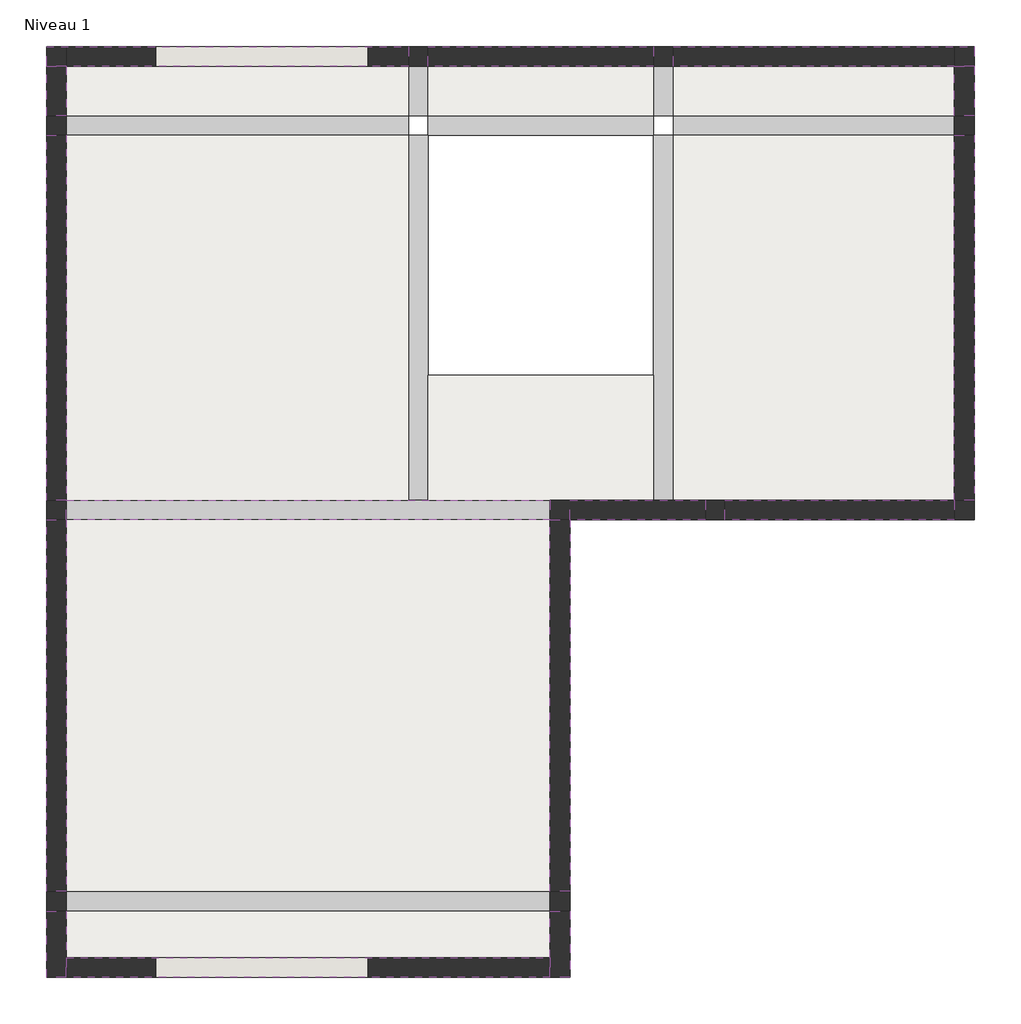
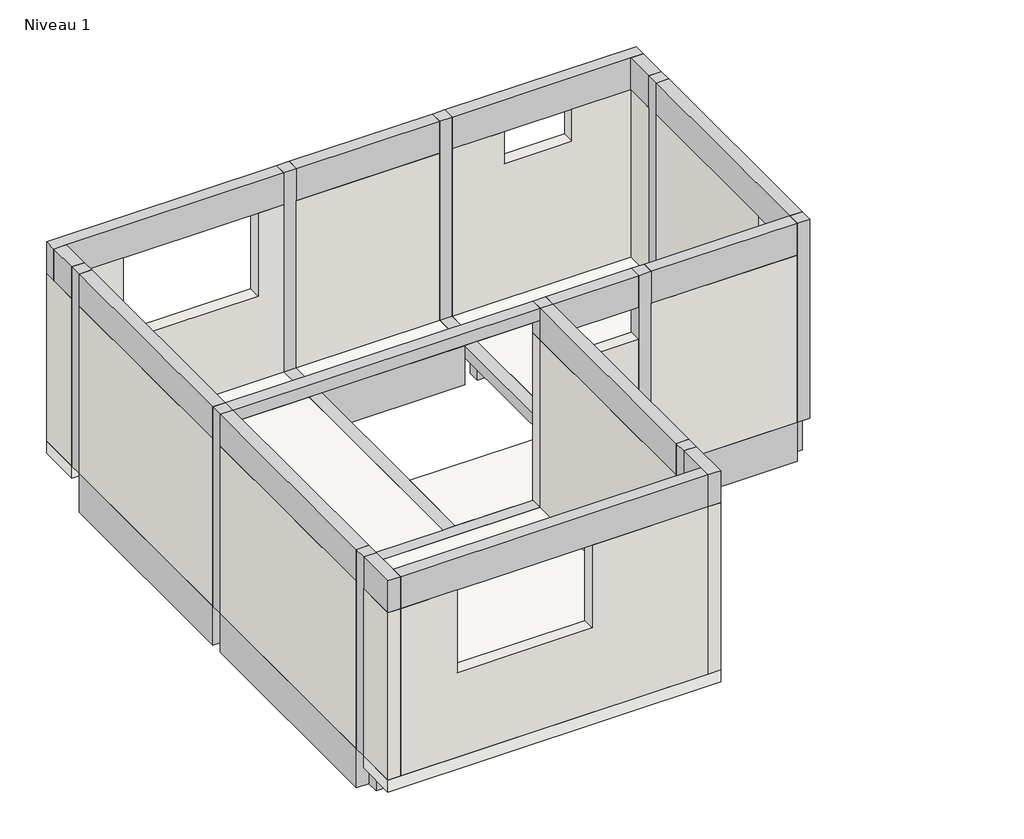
# One storey: 30 beams, 14 walls, 10 columns, 1 slab.
"""IFC4 building model written with IfcOpenShell, lengths in millimetres."""

from ifc_helpers import new_model, si_unit, frame, origin, place, context, project, spatial, polyline, outline, extrude, faceted_brep, element, save

model = new_model("IFC4")

# Units and contexts
model_context = context("Model", 3, world=origin())
ifc_project = project(units=[si_unit("LENGTHUNIT", "METRE", prefix="MILLI")], contexts=[model_context])

# Site, building, storey
site = spatial("IfcSite", under=ifc_project)
building = spatial("IfcBuilding", under=site)
storey = spatial("IfcBuildingStorey", under=building, Name="Niveau 1", Elevation=2590.0)

# Beams
placement = place(None, origin())
element("IfcBeam", 1, ObjectType="Poutre rectangulaire - Béton : 150 x 150 mm", at=placement, inside=storey, context=model_context, shape_type="Brep", body=[
    faceted_brep([(181.3643329, -1302.1202102, 2590.0), (-3468.6356671, -1302.1202102, 2590.0), (-3468.6356671, -1302.1202102, 2440.0), (181.3643329, -1302.1202102, 2440.0), (-3468.6356671, -1152.1202102, 2440.0), (-888.6356671, -1152.1202102, 2440.0), (-738.6356671, -1152.1202102, 2440.0), (181.3643329, -1152.1202102, 2440.0), (181.3643329, -1152.1202102, 2590.0), (-3468.6356671, -1152.1202102, 2590.0), (-888.6356671, -1152.1202102, 2590.0), (-738.6356671, -1152.1202102, 2590.0)], [[[0, 1, 2, 3]], [[3, 2, 4, 5, 6, 7]], [[8, 7, 6, 5, 4, 9, 10, 11]], [[1, 0, 8, 11, 10, 9]], [[0, 3, 7, 8]], [[1, 9, 4, 2]]]),
])
element("IfcBeam", 2, ObjectType="Poutre rectangulaire - Béton : 150 x 150 mm", at=placement, inside=storey, context=model_context, shape_type="Brep", body=[
    faceted_brep([(-888.6356671, 1597.8797898, 2590.0), (-888.6356671, 1597.8797898, 2440.0), (-888.6356671, -1152.1202102, 2440.0), (-888.6356671, -1152.1202102, 2590.0), (-738.6356671, 1597.8797898, 2440.0), (-738.6356671, -212.1202102, 2440.0), (-738.6356671, -1152.1202102, 2440.0), (-738.6356671, 1597.8797898, 2590.0), (-738.6356671, -212.1202102, 2590.0), (-738.6356671, -1152.1202102, 2590.0)], [[[0, 1, 2, 3]], [[1, 4, 5, 6, 2]], [[4, 7, 8, 9, 6, 5]], [[7, 0, 3, 9, 8]], [[0, 7, 4, 1]], [[3, 2, 6, 9]]]),
])
element("IfcBeam", 3, ObjectType="Poutre rectangulaire - Béton : 150 x 150 mm", at=placement, inside=storey, context=model_context, shape_type="Brep", body=[
    faceted_brep([(961.3643329, 1597.8797898, 2590.0), (961.3643329, 1597.8797898, 2440.0), (961.3643329, -212.1202102, 2440.0), (961.3643329, -1152.1202102, 2440.0), (961.3643329, -1152.1202102, 2590.0), (961.3643329, -212.1202102, 2590.0), (1111.3643329, 1597.8797898, 2440.0), (1111.3643329, -1152.1202102, 2440.0), (1111.3643329, 1597.8797898, 2590.0), (1111.3643329, -1152.1202102, 2590.0)], [[[0, 1, 2, 3, 4, 5]], [[1, 6, 7, 3, 2]], [[6, 8, 9, 7]], [[8, 0, 5, 4, 9]], [[1, 0, 8, 6]], [[4, 3, 7, 9]]]),
])
element("IfcBeam", 4, ObjectType="Poutre rectangulaire - Béton : 150 x 150 mm", at=placement, inside=storey, context=model_context, shape_type="Brep", body=[
    faceted_brep([(-738.6356671, 2260.5797898, 2590.0), (-738.6356671, 2260.5797898, 2440.0), (-888.6356671, 2260.5797898, 2440.0), (-888.6356671, 2260.5797898, 2590.0), (-738.6356671, 2117.8797898, 2590.0), (-738.6356671, 1747.8797898, 2590.0), (-738.6356671, 1747.8797898, 2440.0), (-888.6356671, 1747.8797898, 2440.0), (-888.6356671, 1747.8797898, 2590.0), (-888.6356671, 2117.8797898, 2590.0)], [[[0, 1, 2, 3]], [[1, 0, 4, 5, 6]], [[2, 1, 6, 7]], [[3, 2, 7, 8, 9]], [[0, 3, 9, 8, 5, 4]], [[5, 8, 7, 6]]]),
])
element("IfcBeam", 5, ObjectType="Poutre rectangulaire - Béton : 150 x 150 mm", at=placement, inside=storey, context=model_context, shape_type="Brep", body=[
    faceted_brep([(1111.3643329, 2260.5797898, 2590.0), (1111.3643329, 2260.5797898, 2440.0), (961.3643329, 2260.5797898, 2440.0), (961.3643329, 2260.5797898, 2590.0), (1111.3643329, 2117.8797898, 2590.0), (1111.3643329, 1747.8797898, 2590.0), (1111.3643329, 1747.8797898, 2440.0), (961.3643329, 1747.8797898, 2440.0), (961.3643329, 1747.8797898, 2590.0), (961.3643329, 2117.8797898, 2590.0)], [[[0, 1, 2, 3]], [[1, 0, 4, 5, 6]], [[2, 1, 6, 7]], [[3, 2, 7, 8, 9]], [[0, 3, 9, 8, 5, 4]], [[5, 8, 7, 6]]]),
])
element("IfcBeam", 6, ObjectType="Poutre rectangulaire - Béton : 150 x 150 mm", at=placement, inside=storey, context=model_context, shape_type="Brep", body=[
    faceted_brep([(181.3643329, -1302.1202102, 5090.0), (-3468.6356671, -1302.1202102, 5090.0), (-3468.6356671, -1302.1202102, 4990.0), (-3468.6356671, -1302.1202102, 4940.0), (181.3643329, -1302.1202102, 4940.0), (181.3643329, -1302.1202102, 4990.0), (-3468.6356671, -1152.1202102, 4940.0), (181.3643329, -1152.1202102, 4940.0), (-3468.6356671, -1152.1202102, 4990.0), (-3468.6356671, -1152.1202102, 5090.0), (181.3643329, -1152.1202102, 5090.0), (181.3643329, -1152.1202102, 4990.0)], [[[0, 1, 2, 3, 4, 5]], [[4, 3, 6, 7]], [[7, 6, 8, 9, 10, 11]], [[1, 0, 10, 9]], [[1, 9, 8, 6, 3, 2]], [[4, 7, 11, 10, 0, 5]]]),
])
element("IfcBeam", 7, ObjectType="Poutre rectangulaire - Béton : 150 x 400 mm", at=placement, inside=storey, context=model_context, shape_type="Brep", body=[
    faceted_brep([(-3618.6356671, -1152.1202102, 4690.0), (-3618.6356671, -1152.1202102, 5090.0), (-3618.6356671, 1597.8797898, 5090.0), (-3618.6356671, 1597.8797898, 4690.0), (-3468.6356671, -1152.1202102, 4690.0), (-3468.6356671, 1597.8797898, 4690.0), (-3468.6356671, -1152.1202102, 5090.0), (-3468.6356671, -1152.1202102, 4990.0), (-3468.6356671, 1597.8797898, 5090.0)], [[[0, 1, 2, 3]], [[4, 0, 3, 5]], [[6, 7, 4, 5, 8]], [[1, 6, 8, 2]], [[2, 8, 5, 3]], [[1, 0, 4, 7, 6]]]),
])
element("IfcBeam", 8, ObjectType="Poutre rectangulaire - Béton : 150 x 400 mm", at=placement, inside=storey, context=model_context, shape_type="Brep", body=[
    faceted_brep([(-3618.6356671, -4102.1202102, 4690.0), (-3618.6356671, -4102.1202102, 5090.0), (-3618.6356671, -1302.1202102, 5090.0), (-3618.6356671, -1302.1202102, 4690.0), (-3468.6356671, -4102.1202102, 4690.0), (-3468.6356671, -1302.1202102, 4690.0), (-3468.6356671, -4102.1202102, 5090.0), (-3468.6356671, -1302.1202102, 4990.0), (-3468.6356671, -1302.1202102, 5090.0)], [[[0, 1, 2, 3]], [[4, 0, 3, 5]], [[6, 4, 5, 7, 8]], [[1, 6, 8, 2]], [[2, 8, 7, 5, 3]], [[1, 0, 4, 6]]]),
])
element("IfcBeam", 9, ObjectType="Poutre rectangulaire - Béton : 150 x 400 mm", at=placement, inside=storey, context=model_context, shape_type="Brep", body=[
    faceted_brep([(-3468.6356671, -4252.1202102, 4690.0), (-3468.6356671, -4252.1202102, 5090.0), (-3468.6356671, -4602.1202102, 5090.0), (-3468.6356671, -4752.1202102, 5090.0), (-3468.6356671, -4752.1202102, 4690.0), (-3468.6356671, -4602.1202102, 4690.0), (-3618.6356671, -4252.1202102, 4690.0), (-3618.6356671, -4752.1202102, 4690.0), (-3618.6356671, -4252.1202102, 5090.0), (-3618.6356671, -4752.1202102, 5090.0)], [[[0, 1, 2, 3, 4, 5]], [[6, 0, 5, 4, 7]], [[8, 6, 7, 9]], [[1, 8, 9, 3, 2]], [[1, 0, 6, 8]], [[4, 3, 9, 7]]]),
])
element("IfcBeam", 10, ObjectType="Poutre rectangulaire - Béton : 150 x 400 mm", at=placement, inside=storey, context=model_context, shape_type="Brep", body=[
    faceted_brep([(181.3643329, -4252.1202102, 4690.0), (181.3643329, -4602.1202102, 4690.0), (181.3643329, -4752.1202102, 4690.0), (181.3643329, -4752.1202102, 5090.0), (181.3643329, -4602.1202102, 5090.0), (181.3643329, -4252.1202102, 5090.0), (181.3643329, -4252.1202102, 4990.0), (331.3643329, -4252.1202102, 4690.0), (331.3643329, -4752.1202102, 4690.0), (331.3643329, -4252.1202102, 5090.0), (331.3643329, -4752.1202102, 5090.0)], [[[0, 1, 2, 3, 4, 5, 6]], [[0, 7, 8, 2, 1]], [[7, 9, 10, 8]], [[9, 5, 4, 3, 10]], [[5, 9, 7, 0, 6]], [[3, 2, 8, 10]]]),
])
element("IfcBeam", 11, ObjectType="Poutre rectangulaire - Béton : 150 x 400 mm", at=placement, inside=storey, context=model_context, shape_type="Brep", body=[
    faceted_brep([(-3468.6356671, -4752.1202102, 5090.0), (-3468.6356671, -4752.1202102, 4690.0), (181.3643329, -4752.1202102, 4690.0), (181.3643329, -4752.1202102, 5090.0), (-3468.6356671, -4602.1202102, 4690.0), (181.3643329, -4602.1202102, 4690.0), (-3468.6356671, -4602.1202102, 4990.0), (-3468.6356671, -4602.1202102, 5090.0), (181.3643329, -4602.1202102, 5090.0), (181.3643329, -4602.1202102, 4990.0)], [[[0, 1, 2, 3]], [[1, 4, 5, 2]], [[4, 6, 7, 8, 9, 5]], [[7, 0, 3, 8]], [[1, 0, 7, 6, 4]], [[3, 2, 5, 9, 8]]]),
])
element("IfcBeam", 12, ObjectType="Poutre rectangulaire - Béton : 150 x 400 mm", at=placement, inside=storey, context=model_context, shape_type="Brep", body=[
    faceted_brep([(331.3643329, -1302.1202102, 5090.0), (331.3643329, -4102.1202102, 5090.0), (331.3643329, -4102.1202102, 4690.0), (331.3643329, -1302.1202102, 4690.0), (181.3643329, -4102.1202102, 4690.0), (181.3643329, -1302.1202102, 4690.0), (181.3643329, -4102.1202102, 4990.0), (181.3643329, -4102.1202102, 5090.0), (181.3643329, -1302.1202102, 5090.0), (181.3643329, -1302.1202102, 4990.0)], [[[0, 1, 2, 3]], [[3, 2, 4, 5]], [[5, 4, 6, 7, 8, 9]], [[1, 0, 8, 7]], [[1, 7, 6, 4, 2]], [[0, 3, 5, 9, 8]]]),
])
element("IfcBeam", 13, ObjectType="Poutre rectangulaire - Béton : 150 x 400 mm", at=placement, inside=storey, context=model_context, shape_type="Brep", body=[
    faceted_brep([(1351.3643329, -1302.1202102, 5090.0), (331.3643329, -1302.1202102, 5090.0), (331.3643329, -1302.1202102, 4690.0), (1351.3643329, -1302.1202102, 4690.0), (331.3643329, -1152.1202102, 4690.0), (1351.3643329, -1152.1202102, 4690.0), (331.3643329, -1152.1202102, 4990.0), (331.3643329, -1152.1202102, 5090.0), (1351.3643329, -1152.1202102, 5090.0), (1351.3643329, -1152.1202102, 4990.0)], [[[0, 1, 2, 3]], [[3, 2, 4, 5]], [[5, 4, 6, 7, 8, 9]], [[1, 0, 8, 7]], [[1, 7, 6, 4, 2]], [[0, 3, 5, 9, 8]]]),
])
element("IfcBeam", 14, ObjectType="Poutre rectangulaire - Béton : 150 x 400 mm", at=placement, inside=storey, context=model_context, shape_type="Brep", body=[
    faceted_brep([(3231.3643329, -1302.1202102, 5090.0), (1501.3643329, -1302.1202102, 5090.0), (1501.3643329, -1302.1202102, 4690.0), (3231.3643329, -1302.1202102, 4690.0), (1501.3643329, -1152.1202102, 4690.0), (3231.3643329, -1152.1202102, 4690.0), (1501.3643329, -1152.1202102, 4990.0), (1501.3643329, -1152.1202102, 5090.0), (3231.3643329, -1152.1202102, 5090.0), (3231.3643329, -1152.1202102, 4990.0)], [[[0, 1, 2, 3]], [[3, 2, 4, 5]], [[5, 4, 6, 7, 8, 9]], [[1, 0, 8, 7]], [[1, 7, 6, 4, 2]], [[0, 3, 5, 9, 8]]]),
])
element("IfcBeam", 15, ObjectType="Poutre rectangulaire - Béton : 150 x 400 mm", at=placement, inside=storey, context=model_context, shape_type="Brep", body=[
    faceted_brep([(3381.3643329, 1597.8797898, 4690.0), (3381.3643329, 1597.8797898, 5090.0), (3381.3643329, -1152.1202102, 5090.0), (3381.3643329, -1152.1202102, 4690.0), (3231.3643329, 1597.8797898, 4690.0), (3231.3643329, -1152.1202102, 4690.0), (3231.3643329, 1597.8797898, 5090.0), (3231.3643329, -1152.1202102, 4990.0), (3231.3643329, -1152.1202102, 5090.0)], [[[0, 1, 2, 3]], [[4, 0, 3, 5]], [[6, 4, 5, 7, 8]], [[1, 6, 8, 2]], [[2, 8, 7, 5, 3]], [[1, 0, 4, 6]]]),
])
element("IfcBeam", 16, ObjectType="Poutre rectangulaire - Béton : 150 x 400 mm", at=placement, inside=storey, context=model_context, shape_type="Brep", body=[
    faceted_brep([(1111.3643329, 2117.8797898, 5090.0), (1111.3643329, 2117.8797898, 4690.0), (3231.3643329, 2117.8797898, 4690.0), (3381.3643329, 2117.8797898, 4690.0), (3381.3643329, 2117.8797898, 5090.0), (3231.3643329, 2117.8797898, 5090.0), (1111.3643329, 2267.8797898, 4690.0), (3381.3643329, 2267.8797898, 4690.0), (1111.3643329, 2267.8797898, 5090.0), (3381.3643329, 2267.8797898, 5090.0)], [[[0, 1, 2, 3, 4, 5]], [[1, 6, 7, 3, 2]], [[6, 8, 9, 7]], [[8, 0, 5, 4, 9]], [[0, 8, 6, 1]], [[4, 3, 7, 9]]]),
])
element("IfcBeam", 17, ObjectType="Poutre rectangulaire - Béton : 150 x 400 mm", at=placement, inside=storey, context=model_context, shape_type="Brep", body=[
    faceted_brep([(3381.3643329, 1747.8797898, 5090.0), (3381.3643329, 1747.8797898, 4690.0), (3381.3643329, 2117.8797898, 4690.0), (3381.3643329, 2117.8797898, 5090.0), (3231.3643329, 1747.8797898, 4690.0), (3231.3643329, 2117.8797898, 4690.0), (3231.3643329, 1747.8797898, 5090.0), (3231.3643329, 2117.8797898, 5090.0), (3231.3643329, 2117.8797898, 4990.0)], [[[0, 1, 2, 3]], [[1, 4, 5, 2]], [[4, 6, 7, 8, 5]], [[6, 0, 3, 7]], [[0, 6, 4, 1]], [[3, 2, 5, 8, 7]]]),
])
element("IfcBeam", 18, ObjectType="Poutre rectangulaire - Béton : 150 x 400 mm", at=placement, inside=storey, context=model_context, shape_type="SweptSolid", body=[
    extrude(outline(polyline([(-738.6356671, 2117.8797898), (-738.6356671, 2267.8797898), (961.3643329, 2267.8797898), (961.3643329, 2117.8797898), (-738.6356671, 2117.8797898)])), frame((0.0, 0.0, 4690.0), z_axis=(0.0, 0.0, 1.0), x_axis=(1.0, 0.0, 0.0)), (0.0, 0.0, 1.0), 400.0),
])
element("IfcBeam", 19, ObjectType="Poutre rectangulaire - Béton : 150 x 400 mm", at=placement, inside=storey, context=model_context, shape_type="Brep", body=[
    faceted_brep([(-888.6356671, 2117.8797898, 4690.0), (-888.6356671, 2117.8797898, 5090.0), (-3468.6356671, 2117.8797898, 5090.0), (-3618.6356671, 2117.8797898, 5090.0), (-3618.6356671, 2117.8797898, 4690.0), (-3468.6356671, 2117.8797898, 4690.0), (-888.6356671, 2267.8797898, 4690.0), (-3618.6356671, 2267.8797898, 4690.0), (-888.6356671, 2267.8797898, 5090.0), (-3618.6356671, 2267.8797898, 5090.0)], [[[0, 1, 2, 3, 4, 5]], [[6, 0, 5, 4, 7]], [[8, 6, 7, 9]], [[1, 8, 9, 3, 2]], [[1, 0, 6, 8]], [[4, 3, 9, 7]]]),
])
element("IfcBeam", 20, ObjectType="Poutre rectangulaire - Béton : 150 x 400 mm", at=placement, inside=storey, context=model_context, shape_type="Brep", body=[
    faceted_brep([(-3468.6356671, 1747.8797898, 5090.0), (-3468.6356671, 1747.8797898, 4690.0), (-3468.6356671, 2117.8797898, 4690.0), (-3468.6356671, 2117.8797898, 4990.0), (-3468.6356671, 2117.8797898, 5090.0), (-3618.6356671, 1747.8797898, 4690.0), (-3618.6356671, 2117.8797898, 4690.0), (-3618.6356671, 1747.8797898, 5090.0), (-3618.6356671, 2117.8797898, 5090.0)], [[[0, 1, 2, 3, 4]], [[1, 5, 6, 2]], [[5, 7, 8, 6]], [[7, 0, 4, 8]], [[0, 7, 5, 1]], [[4, 3, 2, 6, 8]]]),
])
element("IfcBeam", 21, ObjectType="Poutre rectangulaire - Béton : 150 x 490 mm", at=placement, inside=storey, context=model_context, shape_type="Brep", body=[
    faceted_brep([(-888.6356671, 1597.8797898, 2590.0), (-3468.6356671, 1597.8797898, 2590.0), (-3468.6356671, 1597.8797898, 2440.0), (-3468.6356671, 1597.8797898, 2100.0), (-888.6356671, 1597.8797898, 2100.0), (-888.6356671, 1597.8797898, 2440.0), (-3468.6356671, 1747.8797898, 2100.0), (-888.6356671, 1747.8797898, 2100.0), (-3468.6356671, 1747.8797898, 2440.0), (-3468.6356671, 1747.8797898, 2590.0), (-888.6356671, 1747.8797898, 2590.0), (-888.6356671, 1747.8797898, 2440.0)], [[[0, 1, 2, 3, 4, 5]], [[4, 3, 6, 7]], [[7, 6, 8, 9, 10, 11]], [[1, 0, 10, 9]], [[1, 9, 8, 6, 3, 2]], [[4, 7, 11, 10, 0, 5]]]),
])
element("IfcBeam", 22, ObjectType="Poutre rectangulaire - Béton : 150 x 490 mm", at=placement, inside=storey, context=model_context, shape_type="Brep", body=[
    faceted_brep([(-738.6356671, 1597.8797898, 2590.0), (-738.6356671, 1597.8797898, 2100.0), (961.3643329, 1597.8797898, 2100.0), (961.3643329, 1597.8797898, 2590.0), (-738.6356671, 1747.8797898, 2100.0), (961.3643329, 1747.8797898, 2100.0), (-738.6356671, 1747.8797898, 2440.0), (-738.6356671, 1747.8797898, 2590.0), (961.3643329, 1747.8797898, 2590.0), (961.3643329, 1747.8797898, 2440.0)], [[[0, 1, 2, 3]], [[1, 4, 5, 2]], [[5, 4, 6, 7, 8, 9]], [[7, 0, 3, 8]], [[0, 7, 6, 4, 1]], [[3, 2, 5, 9, 8]]]),
])
element("IfcBeam", 23, ObjectType="Poutre rectangulaire - Béton : 150 x 490 mm", at=placement, inside=storey, context=model_context, shape_type="Brep", body=[
    faceted_brep([(3231.3643329, 1597.8797898, 2590.0), (1111.3643329, 1597.8797898, 2590.0), (1111.3643329, 1597.8797898, 2440.0), (1111.3643329, 1597.8797898, 2100.0), (3231.3643329, 1597.8797898, 2100.0), (3231.3643329, 1597.8797898, 2440.0), (1111.3643329, 1747.8797898, 2100.0), (3231.3643329, 1747.8797898, 2100.0), (1111.3643329, 1747.8797898, 2440.0), (1111.3643329, 1747.8797898, 2590.0), (3231.3643329, 1747.8797898, 2590.0), (3231.3643329, 1747.8797898, 2440.0)], [[[0, 1, 2, 3, 4, 5]], [[4, 3, 6, 7]], [[7, 6, 8, 9, 10, 11]], [[1, 0, 10, 9]], [[1, 9, 8, 6, 3, 2]], [[4, 7, 11, 10, 0, 5]]]),
])
element("IfcBeam", 24, ObjectType="Poutre rectangulaire - Béton : 150 x 490 mm", at=placement, inside=storey, context=model_context, shape_type="Brep", body=[
    faceted_brep([(3231.3643329, -1152.1202102, 2590.0), (3231.3643329, 1597.8797898, 2590.0), (3231.3643329, 1597.8797898, 2440.0), (3231.3643329, 1597.8797898, 2100.0), (3231.3643329, -1152.1202102, 2100.0), (3231.3643329, -1152.1202102, 2440.0), (3381.3643329, 1597.8797898, 2100.0), (3381.3643329, -1152.1202102, 2100.0), (3381.3643329, 1597.8797898, 2590.0), (3381.3643329, -1152.1202102, 2590.0)], [[[0, 1, 2, 3, 4, 5]], [[4, 3, 6, 7]], [[7, 6, 8, 9]], [[1, 0, 9, 8]], [[1, 8, 6, 3, 2]], [[4, 7, 9, 0, 5]]]),
])
element("IfcBeam", 25, ObjectType="Poutre rectangulaire - Béton : 150 x 490 mm", at=placement, inside=storey, context=model_context, shape_type="Brep", body=[
    faceted_brep([(1501.3643329, -1152.1202102, 2590.0), (3231.3643329, -1152.1202102, 2590.0), (3231.3643329, -1152.1202102, 2440.0), (3231.3643329, -1152.1202102, 2100.0), (1501.3643329, -1152.1202102, 2100.0), (1501.3643329, -1152.1202102, 2440.0), (3231.3643329, -1302.1202102, 2100.0), (1501.3643329, -1302.1202102, 2100.0), (3231.3643329, -1302.1202102, 2590.0), (1501.3643329, -1302.1202102, 2590.0)], [[[0, 1, 2, 3, 4, 5]], [[4, 3, 6, 7]], [[7, 6, 8, 9]], [[1, 0, 9, 8]], [[1, 8, 6, 3, 2]], [[4, 7, 9, 0, 5]]]),
])
element("IfcBeam", 26, ObjectType="Poutre rectangulaire - Béton : 150 x 490 mm", at=placement, inside=storey, context=model_context, shape_type="Brep", body=[
    faceted_brep([(1351.3643329, -1302.1202102, 2590.0), (331.3643329, -1302.1202102, 2590.0), (331.3643329, -1302.1202102, 2100.0), (1351.3643329, -1302.1202102, 2100.0), (331.3643329, -1152.1202102, 2100.0), (1351.3643329, -1152.1202102, 2100.0), (331.3643329, -1152.1202102, 2440.0), (331.3643329, -1152.1202102, 2590.0), (961.3643329, -1152.1202102, 2590.0), (1111.3643329, -1152.1202102, 2590.0), (1351.3643329, -1152.1202102, 2590.0), (1351.3643329, -1152.1202102, 2440.0)], [[[0, 1, 2, 3]], [[3, 2, 4, 5]], [[5, 4, 6, 7, 8, 9, 10, 11]], [[1, 0, 10, 9, 8, 7]], [[0, 3, 5, 11, 10]], [[1, 7, 6, 4, 2]]]),
])
element("IfcBeam", 27, ObjectType="Poutre rectangulaire - Béton : 150 x 490 mm", at=placement, inside=storey, context=model_context, shape_type="Brep", body=[
    faceted_brep([(181.3643329, -4102.1202102, 2590.0), (181.3643329, -1302.1202102, 2590.0), (181.3643329, -1302.1202102, 2440.0), (181.3643329, -1302.1202102, 2100.0), (181.3643329, -2302.1202102, 2100.0), (181.3643329, -4102.1202102, 2100.0), (181.3643329, -4102.1202102, 2440.0), (331.3643329, -1302.1202102, 2100.0), (331.3643329, -2302.1202102, 2100.0), (331.3643329, -4102.1202102, 2100.0), (331.3643329, -1302.1202102, 2590.0), (331.3643329, -4102.1202102, 2590.0)], [[[0, 1, 2, 3, 4, 5, 6]], [[5, 4, 3, 7, 8, 9]], [[9, 8, 7, 10, 11]], [[1, 0, 11, 10]], [[1, 10, 7, 3, 2]], [[5, 9, 11, 0, 6]]]),
])
element("IfcBeam", 28, ObjectType="Poutre rectangulaire - Béton : 150 x 490 mm", at=placement, inside=storey, context=model_context, shape_type="Brep", body=[
    faceted_brep([(-3468.6356671, -4102.1202102, 2590.0), (181.3643329, -4102.1202102, 2590.0), (181.3643329, -4102.1202102, 2440.0), (181.3643329, -4102.1202102, 2100.0), (-3468.6356671, -4102.1202102, 2100.0), (-3468.6356671, -4102.1202102, 2440.0), (181.3643329, -4252.1202102, 2100.0), (-3468.6356671, -4252.1202102, 2100.0), (181.3643329, -4252.1202102, 2440.0), (181.3643329, -4252.1202102, 2590.0), (-3468.6356671, -4252.1202102, 2590.0), (-3468.6356671, -4252.1202102, 2440.0)], [[[0, 1, 2, 3, 4, 5]], [[4, 3, 6, 7]], [[7, 6, 8, 9, 10, 11]], [[1, 0, 10, 9]], [[1, 9, 8, 6, 3, 2]], [[4, 7, 11, 10, 0, 5]]]),
])
element("IfcBeam", 29, ObjectType="Poutre rectangulaire - Béton : 150 x 490 mm", at=placement, inside=storey, context=model_context, shape_type="Brep", body=[
    faceted_brep([(-3468.6356671, -1302.1202102, 2590.0), (-3468.6356671, -4102.1202102, 2590.0), (-3468.6356671, -4102.1202102, 2440.0), (-3468.6356671, -4102.1202102, 2100.0), (-3468.6356671, -1302.1202102, 2100.0), (-3468.6356671, -1302.1202102, 2440.0), (-3618.6356671, -4102.1202102, 2100.0), (-3618.6356671, -1302.1202102, 2100.0), (-3618.6356671, -4102.1202102, 2590.0), (-3618.6356671, -1302.1202102, 2590.0)], [[[0, 1, 2, 3, 4, 5]], [[4, 3, 6, 7]], [[7, 6, 8, 9]], [[1, 0, 9, 8]], [[1, 8, 6, 3, 2]], [[4, 7, 9, 0, 5]]]),
])
element("IfcBeam", 30, ObjectType="Poutre rectangulaire - Béton : 150 x 490 mm", at=placement, inside=storey, context=model_context, shape_type="Brep", body=[
    faceted_brep([(-3468.6356671, 1597.8797898, 2590.0), (-3468.6356671, -1152.1202102, 2590.0), (-3468.6356671, -1152.1202102, 2440.0), (-3468.6356671, -1152.1202102, 2100.0), (-3468.6356671, 1597.8797898, 2100.0), (-3468.6356671, 1597.8797898, 2440.0), (-3618.6356671, -1152.1202102, 2100.0), (-3618.6356671, 1597.8797898, 2100.0), (-3618.6356671, -1152.1202102, 2590.0), (-3618.6356671, 1597.8797898, 2590.0)], [[[0, 1, 2, 3, 4, 5]], [[4, 3, 6, 7]], [[7, 6, 8, 9]], [[1, 0, 9, 8]], [[4, 7, 9, 0, 5]], [[1, 8, 6, 3, 2]]]),
])

# Columns
element("IfcColumn", 31, ObjectType="Poteau béton - Carré : 150 mm x 150 mm", at=placement, inside=storey, context=model_context, shape_type="SweptSolid", body=[
    extrude(outline(polyline([(-3468.6356671, 1747.8797898), (-3468.6356671, 1597.8797898), (-3618.6356671, 1597.8797898), (-3618.6356671, 1747.8797898), (-3468.6356671, 1747.8797898)])), frame((0.0, 0.0, 2590.0), z_axis=(0.0, 0.0, 1.0), x_axis=(1.0, 0.0, 0.0)), (0.0, 0.0, 1.0), 2500.0),
])
element("IfcColumn", 32, ObjectType="Poteau béton - Carré : 150 mm x 150 mm", at=placement, inside=storey, context=model_context, shape_type="SweptSolid", body=[
    extrude(outline(polyline([(-3468.6356671, -1152.1202102), (-3468.6356671, -1302.1202102), (-3618.6356671, -1302.1202102), (-3618.6356671, -1152.1202102), (-3468.6356671, -1152.1202102)])), frame((0.0, 0.0, 2590.0), z_axis=(0.0, 0.0, 1.0), x_axis=(1.0, 0.0, 0.0)), (0.0, 0.0, 1.0), 2500.0),
])
element("IfcColumn", 33, ObjectType="Poteau béton - Carré : 150 mm x 150 mm", at=placement, inside=storey, context=model_context, shape_type="SweptSolid", body=[
    extrude(outline(polyline([(-3468.6356671, -4102.1202102), (-3468.6356671, -4252.1202102), (-3618.6356671, -4252.1202102), (-3618.6356671, -4102.1202102), (-3468.6356671, -4102.1202102)])), frame((0.0, 0.0, 2590.0), z_axis=(0.0, 0.0, 1.0), x_axis=(1.0, 0.0, 0.0)), (0.0, 0.0, 1.0), 2500.0),
])
element("IfcColumn", 34, ObjectType="Poteau béton - Carré : 150 mm x 150 mm", at=placement, inside=storey, context=model_context, shape_type="Brep", body=[
    faceted_brep([(331.3643329, -4102.1202102, 2590.0), (331.3643329, -4252.1202102, 2590.0), (181.3643329, -4252.1202102, 2590.0), (181.3643329, -4102.1202102, 2590.0), (331.3643329, -4102.1202102, 5090.0), (331.3643329, -4252.1202102, 5090.0), (181.3643329, -4252.1202102, 5090.0), (181.3643329, -4252.1202102, 4990.0), (181.3643329, -4102.1202102, 5090.0), (181.3643329, -4102.1202102, 4990.0)], [[[0, 1, 2, 3]], [[1, 0, 4, 5]], [[2, 1, 5, 6, 7]], [[3, 2, 7, 6, 8, 9]], [[0, 3, 9, 8, 4]], [[5, 4, 8, 6]]]),
])
element("IfcColumn", 35, ObjectType="Poteau béton - Carré : 150 mm x 150 mm", at=placement, inside=storey, context=model_context, shape_type="Brep", body=[
    faceted_brep([(331.3643329, -1152.1202102, 2590.0), (331.3643329, -1302.1202102, 2590.0), (181.3643329, -1302.1202102, 2590.0), (181.3643329, -1152.1202102, 2590.0), (331.3643329, -1152.1202102, 4990.0), (331.3643329, -1152.1202102, 5090.0), (331.3643329, -1302.1202102, 5090.0), (181.3643329, -1302.1202102, 5090.0), (181.3643329, -1302.1202102, 4990.0), (181.3643329, -1152.1202102, 5090.0), (181.3643329, -1152.1202102, 4990.0)], [[[0, 1, 2, 3]], [[1, 0, 4, 5, 6]], [[2, 1, 6, 7, 8]], [[3, 2, 8, 7, 9, 10]], [[0, 3, 10, 9, 5, 4]], [[6, 5, 9, 7]]]),
])
element("IfcColumn", 36, ObjectType="Poteau béton - Carré : 150 mm x 150 mm", at=placement, inside=storey, context=model_context, shape_type="Brep", body=[
    faceted_brep([(1501.3643329, -1152.1202102, 2590.0), (1501.3643329, -1302.1202102, 2590.0), (1351.3643329, -1302.1202102, 2590.0), (1351.3643329, -1152.1202102, 2590.0), (1501.3643329, -1152.1202102, 4990.0), (1501.3643329, -1152.1202102, 5090.0), (1501.3643329, -1302.1202102, 5090.0), (1351.3643329, -1302.1202102, 5090.0), (1351.3643329, -1152.1202102, 5090.0), (1351.3643329, -1152.1202102, 4990.0)], [[[0, 1, 2, 3]], [[1, 0, 4, 5, 6]], [[2, 1, 6, 7]], [[3, 2, 7, 8, 9]], [[0, 3, 9, 8, 5, 4]], [[6, 5, 8, 7]]]),
])
element("IfcColumn", 37, ObjectType="Poteau béton - Carré : 150 mm x 150 mm", at=placement, inside=storey, context=model_context, shape_type="SweptSolid", body=[
    extrude(outline(polyline([(3381.3643329, -1152.1202102), (3381.3643329, -1302.1202102), (3231.3643329, -1302.1202102), (3231.3643329, -1152.1202102), (3381.3643329, -1152.1202102)])), frame((0.0, 0.0, 2590.0), z_axis=(0.0, 0.0, 1.0), x_axis=(1.0, 0.0, 0.0)), (0.0, 0.0, 1.0), 2500.0),
])
element("IfcColumn", 38, ObjectType="Poteau béton - Carré : 150 mm x 150 mm", at=placement, inside=storey, context=model_context, shape_type="SweptSolid", body=[
    extrude(outline(polyline([(3381.3643329, 1747.8797898), (3381.3643329, 1597.8797898), (3231.3643329, 1597.8797898), (3231.3643329, 1747.8797898), (3381.3643329, 1747.8797898)])), frame((0.0, 0.0, 2590.0), z_axis=(0.0, 0.0, 1.0), x_axis=(1.0, 0.0, 0.0)), (0.0, 0.0, 1.0), 2500.0),
])
element("IfcColumn", 39, ObjectType="Poteau béton - Carré : 150 mm x 150 mm", at=placement, inside=storey, context=model_context, shape_type="Brep", body=[
    faceted_brep([(1111.3643329, 2267.8797898, 2590.0), (1111.3643329, 2260.5797898, 2590.0), (1111.3643329, 2117.8797898, 2590.0), (961.3643329, 2117.8797898, 2590.0), (961.3643329, 2260.5797898, 2590.0), (961.3643329, 2267.8797898, 2590.0), (1111.3643329, 2267.8797898, 5090.0), (1111.3643329, 2117.8797898, 5090.0), (961.3643329, 2117.8797898, 5090.0), (961.3643329, 2267.8797898, 5090.0)], [[[0, 1, 2, 3, 4, 5]], [[6, 7, 2, 1, 0]], [[7, 8, 3, 2]], [[8, 9, 5, 4, 3]], [[9, 6, 0, 5]], [[6, 9, 8, 7]]]),
])
element("IfcColumn", 40, ObjectType="Poteau béton - Carré : 150 mm x 150 mm", at=placement, inside=storey, context=model_context, shape_type="Brep", body=[
    faceted_brep([(-738.6356671, 2267.8797898, 2590.0), (-738.6356671, 2260.5797898, 2590.0), (-738.6356671, 2117.8797898, 2590.0), (-888.6356671, 2117.8797898, 2590.0), (-888.6356671, 2260.5797898, 2590.0), (-888.6356671, 2267.8797898, 2590.0), (-738.6356671, 2267.8797898, 5090.0), (-738.6356671, 2117.8797898, 5090.0), (-888.6356671, 2117.8797898, 5090.0), (-888.6356671, 2267.8797898, 5090.0)], [[[0, 1, 2, 3, 4, 5]], [[6, 7, 2, 1, 0]], [[7, 8, 3, 2]], [[8, 9, 5, 4, 3]], [[9, 6, 0, 5]], [[6, 9, 8, 7]]]),
])

# Slab
element("IfcSlab", 41, ObjectType="PH Rdc", at=placement, inside=storey, context=model_context, shape_type="Brep", body=[
    faceted_brep([(3231.3643329, 1597.8797898, 2440.0), (3231.3643329, -1152.1202102, 2440.0), (1111.3643329, -1152.1202102, 2440.0), (1111.3643329, 1597.8797898, 2440.0), (3231.3643329, 1597.8797898, 2590.0), (1111.3643329, 1597.8797898, 2590.0), (1111.3643329, -1152.1202102, 2590.0), (1351.3643329, -1152.1202102, 2590.0), (1501.3643329, -1152.1202102, 2590.0), (3231.3643329, -1152.1202102, 2590.0)], [[[0, 1, 2, 3]], [[4, 5, 6, 7, 8, 9]], [[1, 0, 4, 9]], [[2, 1, 9, 8, 7, 6]], [[3, 2, 6, 5]], [[0, 3, 5, 4]]]),
    faceted_brep([(181.3643329, -1302.1202102, 2440.0), (181.3643329, -4102.1202102, 2440.0), (-3468.6356671, -4102.1202102, 2440.0), (-3468.6356671, -1302.1202102, 2440.0), (181.3643329, -1302.1202102, 2590.0), (-3468.6356671, -1302.1202102, 2590.0), (-3468.6356671, -4102.1202102, 2590.0), (181.3643329, -4102.1202102, 2590.0)], [[[0, 1, 2, 3]], [[4, 5, 6, 7]], [[1, 0, 4, 7]], [[2, 1, 7, 6]], [[3, 2, 6, 5]], [[0, 3, 5, 4]]]),
    faceted_brep([(-888.6356671, 1747.8797898, 2440.0), (-3618.6356671, 1747.8797898, 2440.0), (-3618.6356671, 2260.5797898, 2440.0), (-888.6356671, 2260.5797898, 2440.0), (-888.6356671, 1747.8797898, 2590.0), (-888.6356671, 2260.5797898, 2590.0), (-3618.6356671, 2260.5797898, 2590.0), (-3618.6356671, 1747.8797898, 2590.0), (-3468.6356671, 1747.8797898, 2590.0)], [[[0, 1, 2, 3]], [[4, 5, 6, 7, 8]], [[1, 0, 4, 8, 7]], [[2, 1, 7, 6]], [[3, 2, 6, 5]], [[0, 3, 5, 4]]]),
    faceted_brep([(3381.3643329, 2260.5797898, 2440.0), (3381.3643329, 1747.8797898, 2440.0), (1111.3643329, 1747.8797898, 2440.0), (1111.3643329, 2260.5797898, 2440.0), (3381.3643329, 2260.5797898, 2590.0), (1111.3643329, 2260.5797898, 2590.0), (1111.3643329, 1747.8797898, 2590.0), (3231.3643329, 1747.8797898, 2590.0), (3381.3643329, 1747.8797898, 2590.0)], [[[0, 1, 2, 3]], [[4, 5, 6, 7, 8]], [[1, 0, 4, 8]], [[2, 1, 8, 7, 6]], [[3, 2, 6, 5]], [[0, 3, 5, 4]]]),
    faceted_brep([(331.3643329, -4252.1202102, 2440.0), (331.3643329, -4752.1202102, 2440.0), (-3618.6356671, -4752.1202102, 2440.0), (-3618.6356671, -4252.1202102, 2440.0), (331.3643329, -4252.1202102, 2590.0), (181.3643329, -4252.1202102, 2590.0), (-3468.6356671, -4252.1202102, 2590.0), (-3618.6356671, -4252.1202102, 2590.0), (-3618.6356671, -4752.1202102, 2590.0), (331.3643329, -4752.1202102, 2590.0)], [[[0, 1, 2, 3]], [[4, 5, 6, 7, 8, 9]], [[1, 0, 4, 9]], [[2, 1, 9, 8]], [[3, 2, 8, 7]], [[0, 3, 7, 6, 5, 4]]]),
    faceted_brep([(-888.6356671, 1597.8797898, 2440.0), (-888.6356671, -1152.1202102, 2440.0), (-3468.6356671, -1152.1202102, 2440.0), (-3468.6356671, 1597.8797898, 2440.0), (-888.6356671, 1597.8797898, 2590.0), (-3468.6356671, 1597.8797898, 2590.0), (-3468.6356671, -1152.1202102, 2590.0), (-888.6356671, -1152.1202102, 2590.0)], [[[0, 1, 2, 3]], [[4, 5, 6, 7]], [[1, 0, 4, 7]], [[2, 1, 7, 6]], [[3, 2, 6, 5]], [[0, 3, 5, 4]]]),
    faceted_brep([(961.3643329, -212.1202102, 2440.0), (961.3643329, -1152.1202102, 2440.0), (181.3643329, -1152.1202102, 2440.0), (-738.6356671, -1152.1202102, 2440.0), (-738.6356671, -212.1202102, 2440.0), (961.3643329, -212.1202102, 2590.0), (-738.6356671, -212.1202102, 2590.0), (-738.6356671, -1152.1202102, 2590.0), (181.3643329, -1152.1202102, 2590.0), (331.3643329, -1152.1202102, 2590.0), (961.3643329, -1152.1202102, 2590.0)], [[[0, 1, 2, 3, 4]], [[5, 6, 7, 8, 9, 10]], [[1, 0, 5, 10]], [[3, 2, 1, 10, 9, 8, 7]], [[4, 3, 7, 6]], [[0, 4, 6, 5]]]),
    faceted_brep([(961.3643329, 2260.5797898, 2440.0), (961.3643329, 1747.8797898, 2440.0), (-738.6356671, 1747.8797898, 2440.0), (-738.6356671, 2260.5797898, 2440.0), (961.3643329, 2260.5797898, 2590.0), (-738.6356671, 2260.5797898, 2590.0), (-738.6356671, 1747.8797898, 2590.0), (961.3643329, 1747.8797898, 2590.0)], [[[0, 1, 2, 3]], [[4, 5, 6, 7]], [[1, 0, 4, 7]], [[2, 1, 7, 6]], [[3, 2, 6, 5]], [[0, 3, 5, 4]]]),
])

# Walls
element("IfcWall", 42, ObjectType="Agglos 015", at=placement, inside=storey, context=model_context, shape_type="SweptSolid", body=[
    extrude(outline(polyline([(-3618.6356671, -1152.1202102), (-3618.6356671, 1597.8797898), (-3468.6356671, 1597.8797898), (-3468.6356671, -1152.1202102), (-3618.6356671, -1152.1202102)])), frame((0.0, 0.0, 2590.0), z_axis=(0.0, 0.0, 1.0), x_axis=(1.0, 0.0, 0.0)), (0.0, 0.0, 1.0), 2100.0),
])
element("IfcWall", 43, ObjectType="Agglos 015", at=placement, inside=storey, context=model_context, shape_type="SweptSolid", body=[
    extrude(outline(polyline([(-3618.6356671, -4102.1202102), (-3618.6356671, -1302.1202102), (-3468.6356671, -1302.1202102), (-3468.6356671, -4102.1202102), (-3618.6356671, -4102.1202102)])), frame((0.0, 0.0, 2590.0), z_axis=(0.0, 0.0, 1.0), x_axis=(1.0, 0.0, 0.0)), (0.0, 0.0, 1.0), 2100.0),
])
element("IfcWall", 44, ObjectType="Agglos 015", at=placement, inside=storey, context=model_context, shape_type="SweptSolid", body=[
    extrude(outline(polyline([(2590.0, -3468.6356671), (2590.0, 181.3643329), (4690.0, 181.3643329), (4690.0, -1193.6356671), (3650.0, -1193.6356671), (3650.0, -2793.6356671), (4690.0, -2793.6356671), (4690.0, -3468.6356671), (2590.0, -3468.6356671)])), frame((0.0, -4752.1202102, 0.0), z_axis=(0.0, 1.0, 0.0), x_axis=(0.0, 0.0, 1.0)), (0.0, 0.0, 1.0), 150.0),
])
element("IfcWall", 45, ObjectType="Agglos 015", at=placement, inside=storey, context=model_context, shape_type="Brep", body=[
    faceted_brep([(-3618.6356671, -4252.1202102, 2590.0), (-3618.6356671, -4752.1202102, 2590.0), (-3618.6356671, -4752.1202102, 4690.0), (-3618.6356671, -4252.1202102, 4690.0), (-3468.6356671, -4252.1202102, 2590.0), (-3468.6356671, -4252.1202102, 4690.0), (-3468.6356671, -4602.1202102, 4690.0), (-3468.6356671, -4752.1202102, 4690.0), (-3468.6356671, -4752.1202102, 2590.0), (-3468.6356671, -4602.1202102, 2590.0)], [[[0, 1, 2, 3]], [[4, 5, 6, 7, 8, 9]], [[1, 0, 4, 9, 8]], [[3, 2, 7, 6, 5]], [[0, 3, 5, 4]], [[2, 1, 8, 7]]]),
])
element("IfcWall", 46, ObjectType="Agglos 015", at=placement, inside=storey, context=model_context, shape_type="Brep", body=[
    faceted_brep([(181.3643329, -4252.1202102, 2590.0), (181.3643329, -4602.1202102, 2590.0), (181.3643329, -4752.1202102, 2590.0), (181.3643329, -4752.1202102, 4690.0), (181.3643329, -4602.1202102, 4690.0), (181.3643329, -4252.1202102, 4690.0), (331.3643329, -4252.1202102, 2590.0), (331.3643329, -4252.1202102, 4690.0), (331.3643329, -4752.1202102, 4690.0), (331.3643329, -4752.1202102, 2590.0)], [[[0, 1, 2, 3, 4, 5]], [[6, 7, 8, 9]], [[2, 1, 0, 6, 9]], [[5, 4, 3, 8, 7]], [[0, 5, 7, 6]], [[3, 2, 9, 8]]]),
])
element("IfcWall", 47, ObjectType="Agglos 015", at=placement, inside=storey, context=model_context, shape_type="Brep", body=[
    faceted_brep([(331.3643329, -4102.1202102, 2590.0), (331.3643329, -1302.1202102, 2590.0), (331.3643329, -1302.1202102, 4290.0), (331.3643329, -1302.1202102, 4690.0), (331.3643329, -4102.1202102, 4690.0), (181.3643329, -4102.1202102, 2590.0), (181.3643329, -4102.1202102, 4690.0), (181.3643329, -1302.1202102, 4690.0), (181.3643329, -1302.1202102, 2590.0)], [[[0, 1, 2, 3, 4]], [[5, 6, 7, 8]], [[1, 0, 5, 8]], [[4, 3, 7, 6]], [[0, 4, 6, 5]], [[3, 2, 1, 8, 7]]]),
])
element("IfcWall", 48, ObjectType="Agglos 015", at=placement, inside=storey, context=model_context, shape_type="Brep", body=[
    faceted_brep([(181.3643329, -1302.1202102, 2590.0), (331.3643329, -1302.1202102, 2590.0), (1351.3643329, -1302.1202102, 2590.0), (1351.3643329, -1302.1202102, 4290.0), (331.3643329, -1302.1202102, 4290.0), (331.3643329, -1302.1202102, 4690.0), (181.3643329, -1302.1202102, 4690.0), (1351.3643329, -1152.1202102, 2590.0), (181.3643329, -1152.1202102, 2590.0), (181.3643329, -1152.1202102, 4690.0), (331.3643329, -1152.1202102, 4690.0), (331.3643329, -1152.1202102, 4290.0), (1351.3643329, -1152.1202102, 4290.0)], [[[0, 1, 2, 3, 4, 5, 6]], [[7, 8, 9, 10, 11, 12]], [[2, 1, 0, 8, 7]], [[2, 7, 12, 3]], [[9, 6, 5, 10]], [[11, 4, 3, 12]], [[4, 11, 10, 5]], [[0, 6, 9, 8]]]),
])
element("IfcWall", 49, ObjectType="Agglos 015", at=placement, inside=storey, context=model_context, shape_type="SweptSolid", body=[
    extrude(outline(polyline([(3231.3643329, -1302.1202102), (1501.3643329, -1302.1202102), (1501.3643329, -1152.1202102), (3231.3643329, -1152.1202102), (3231.3643329, -1302.1202102)])), frame((0.0, 0.0, 2590.0), z_axis=(0.0, 0.0, 1.0), x_axis=(1.0, 0.0, 0.0)), (0.0, 0.0, 1.0), 2100.0),
])
element("IfcWall", 50, ObjectType="Agglos 015", at=placement, inside=storey, context=model_context, shape_type="SweptSolid", body=[
    extrude(outline(polyline([(1597.8797898, 2590.0), (-1152.1202102, 2590.0), (-1152.1202102, 4690.0), (-902.1202102, 4690.0), (-902.1202102, 4290.0), (-502.1202102, 4290.0), (-502.1202102, 4690.0), (1597.8797898, 4690.0), (1597.8797898, 2590.0)])), frame((3231.3643329, 0.0, 0.0), z_axis=(1.0, 0.0, 0.0), x_axis=(0.0, 1.0, 0.0)), (0.0, 0.0, 1.0), 150.0),
])
element("IfcWall", 51, ObjectType="Agglos 015", at=placement, inside=storey, context=model_context, shape_type="SweptSolid", body=[
    extrude(outline(polyline([(2590.0, 1111.3643329), (2590.0, 3231.3643329), (4690.0, 3231.3643329), (4690.0, 2531.3643329), (4290.0, 2531.3643329), (4290.0, 1731.3643329), (4690.0, 1731.3643329), (4690.0, 1111.3643329), (2590.0, 1111.3643329)])), frame((0.0, 2117.8797898, 0.0), z_axis=(0.0, 1.0, 0.0), x_axis=(0.0, 0.0, 1.0)), (0.0, 0.0, 1.0), 150.0),
])
element("IfcWall", 52, ObjectType="Agglos 015", at=placement, inside=storey, context=model_context, shape_type="Brep", body=[
    faceted_brep([(3231.3643329, 2267.8797898, 2590.0), (3231.3643329, 2117.8797898, 2590.0), (3231.3643329, 1747.8797898, 2590.0), (3231.3643329, 1747.8797898, 4690.0), (3231.3643329, 2117.8797898, 4690.0), (3231.3643329, 2267.8797898, 4690.0), (3381.3643329, 2267.8797898, 2590.0), (3381.3643329, 2267.8797898, 4690.0), (3381.3643329, 1747.8797898, 4690.0), (3381.3643329, 1747.8797898, 2590.0)], [[[0, 1, 2, 3, 4, 5]], [[6, 7, 8, 9]], [[2, 1, 0, 6, 9]], [[3, 2, 9, 8]], [[5, 4, 3, 8, 7]], [[0, 5, 7, 6]]]),
])
element("IfcWall", 53, ObjectType="Agglos 015", at=placement, inside=storey, context=model_context, shape_type="SweptSolid", body=[
    extrude(outline(polyline([(-738.6356671, 2267.8797898), (961.3643329, 2267.8797898), (961.3643329, 2117.8797898), (-738.6356671, 2117.8797898), (-738.6356671, 2267.8797898)])), frame((0.0, 0.0, 2590.0), z_axis=(0.0, 0.0, 1.0), x_axis=(1.0, 0.0, 0.0)), (0.0, 0.0, 1.0), 2100.0),
])
element("IfcWall", 54, ObjectType="Agglos 015", at=placement, inside=storey, context=model_context, shape_type="SweptSolid", body=[
    extrude(outline(polyline([(2590.0, -3468.6356671), (2590.0, -888.6356671), (4690.0, -888.6356671), (4690.0, -1193.6356671), (3650.0, -1193.6356671), (3650.0, -2793.6356671), (4690.0, -2793.6356671), (4690.0, -3468.6356671), (2590.0, -3468.6356671)])), frame((0.0, 2117.8797898, 0.0), z_axis=(0.0, 1.0, 0.0), x_axis=(0.0, 0.0, 1.0)), (0.0, 0.0, 1.0), 150.0),
])
element("IfcWall", 55, ObjectType="Agglos 015", at=placement, inside=storey, context=model_context, shape_type="Brep", body=[
    faceted_brep([(-3618.6356671, 2267.8797898, 2590.0), (-3618.6356671, 1747.8797898, 2590.0), (-3618.6356671, 1747.8797898, 4690.0), (-3618.6356671, 2267.8797898, 4690.0), (-3468.6356671, 2267.8797898, 2590.0), (-3468.6356671, 2267.8797898, 4690.0), (-3468.6356671, 2117.8797898, 4690.0), (-3468.6356671, 1747.8797898, 4690.0), (-3468.6356671, 1747.8797898, 2590.0), (-3468.6356671, 2117.8797898, 2590.0)], [[[0, 1, 2, 3]], [[4, 5, 6, 7, 8, 9]], [[1, 0, 4, 9, 8]], [[2, 1, 8, 7]], [[3, 2, 7, 6, 5]], [[0, 3, 5, 4]]]),
])

save(model, "model.ifc")
